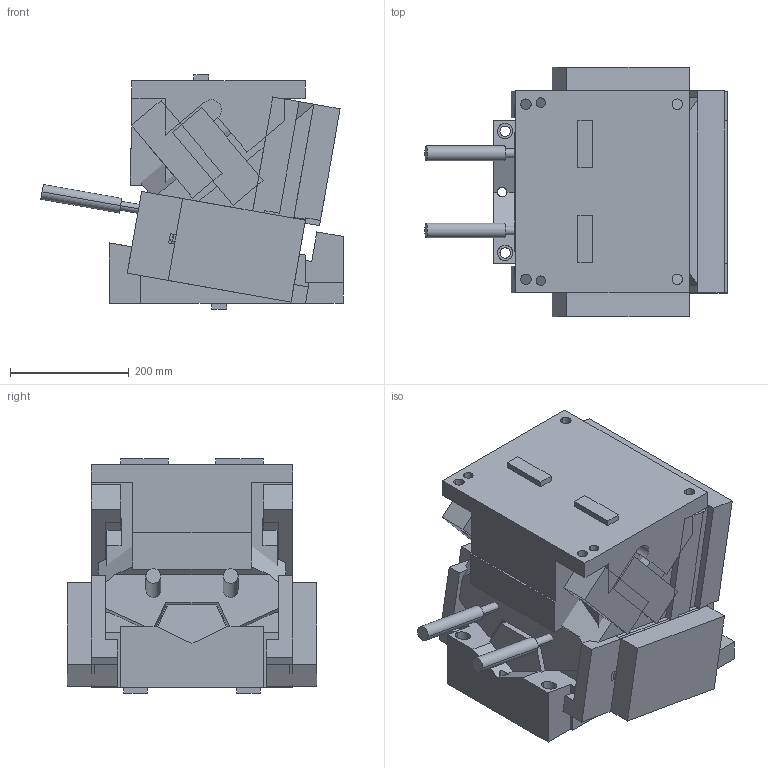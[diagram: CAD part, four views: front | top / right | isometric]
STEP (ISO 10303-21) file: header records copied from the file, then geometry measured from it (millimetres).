
FILE_DESCRIPTION(('CATIA V5 STEP','CAx-IF Rec.Pracs.--- Model Styling and Organization---1.5--- 2016-08-15','CAx-IF Rec.Pracs.---Supplemental Geometry---1.0---2011-11-01','CAx-IF Rec.Pracs.---Representation and Presentation of Product Manufacturing Information (PMI)---2.3---2014-10-13','CAx-IF Rec.Pracs.--- Composite Materials ---1.1---2010-07-15'),'2;1');
FILE_NAME('C:\Users\meyer\Desktop\DT_QI_2023\step\2016.15.034.10.1001.00_b.stp','2022-12-13T10:41:45+00:00',('${USER}'),('AUDI AG, ${GROUP}'),'CATIA Version 5-6 Release 2020 SP3 HF32','CATIA V5 STEP AP214 Edition 3 v2','none');
FILE_SCHEMA(('AUTOMOTIVE_DESIGN { 1 0 10303 214 3 1 1 1 }'));
Length unit declared in the file: millimetre
Products named in the file (1): 2016.15.034.10.1001.00_b
Bounding box: 509.25 x 420 x 395 mm (x, y, z)
Volume: 58414668.3 mm3; surface area: 2376411.9 mm2
Topology: 9 solids, 9 shells, 388 faces, 1216 edges, 994 vertices
Faces by surface type: plane 326, cylinder 62
Entity records: 23624 total; most frequent: CARTESIAN_POINT 12063, ORIENTED_EDGE 2400, DIRECTION 1564, EDGE_CURVE 1200, VECTOR 1000, LINE 1000, VERTEX_POINT 904, EDGE_LOOP 486
